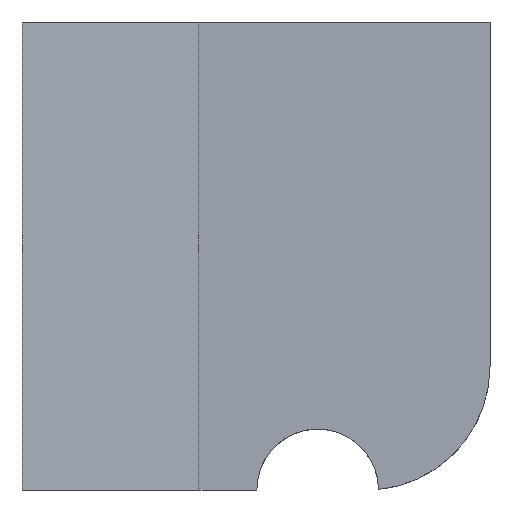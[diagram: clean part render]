
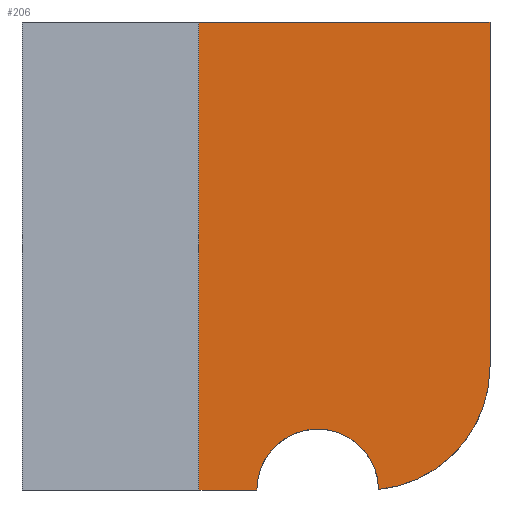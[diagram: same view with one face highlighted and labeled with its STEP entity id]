
A CAD part, left-side view. The second image highlights one B-rep face of the part: STEP entity #206.
In plain terms, the highlighted planar face has unit normal (-1, 0, 0).
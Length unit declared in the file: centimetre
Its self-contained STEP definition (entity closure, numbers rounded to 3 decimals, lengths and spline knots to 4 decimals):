
#11 = VERTEX_POINT ( 'NONE', #597 ) ;
#34 = LINE ( 'NONE', #173, #368 ) ;
#60 = EDGE_CURVE ( 'NONE', #266, #835, #366, .T. ) ;
#104 = LINE ( 'NONE', #111, #263 ) ;
#111 = CARTESIAN_POINT ( 'NONE',  ( 0., 0., 1000. ) ) ;
#134 = VECTOR ( 'NONE', #156, 100. ) ;
#141 = CARTESIAN_POINT ( 'NONE',  ( 0., 621.8618, 0. ) ) ;
#156 = DIRECTION ( 'NONE',  ( 0., 0., 1. ) ) ;
#159 = EDGE_CURVE ( 'NONE', #603, #794, #34, .T. ) ;
#169 = AXIS2_PLACEMENT_3D ( 'NONE', #821, #637, #243 ) ;
#173 = CARTESIAN_POINT ( 'NONE',  ( 0., 1000., 1000. ) ) ;
#182 = CARTESIAN_POINT ( 'NONE',  ( 0., 0., 1000. ) ) ;
#183 = ORIENTED_EDGE ( 'NONE', *, *, #626, .T. ) ;
#206 = ADVANCED_FACE ( 'NONE', ( #545 ), #477, .F. ) ;
#231 = CARTESIAN_POINT ( 'NONE',  ( 0., 1000., 1000. ) ) ;
#234 = ORIENTED_EDGE ( 'NONE', *, *, #724, .T. ) ;
#243 = DIRECTION ( 'NONE',  ( 0., 0., -1. ) ) ;
#263 = VECTOR ( 'NONE', #496, 100. ) ;
#266 = VERTEX_POINT ( 'NONE', #388 ) ;
#281 = VERTEX_POINT ( 'NONE', #458 ) ;
#338 = AXIS2_PLACEMENT_3D ( 'NONE', #608, #673, #535 ) ;
#366 = CIRCLE ( 'NONE', #338, 130.1091 ) ;
#368 = VECTOR ( 'NONE', #373, 100. ) ;
#373 = DIRECTION ( 'NONE',  ( 0., -1., 0. ) ) ;
#388 = CARTESIAN_POINT ( 'NONE',  ( 0., 498.2438, 0. ) ) ;
#398 = EDGE_CURVE ( 'NONE', #281, #603, #722, .T. ) ;
#417 = DIRECTION ( 'NONE',  ( 1., 0., 0. ) ) ;
#418 = ORIENTED_EDGE ( 'NONE', *, *, #60, .T. ) ;
#426 = CARTESIAN_POINT ( 'NONE',  ( 0., 1000., 0. ) ) ;
#431 = DIRECTION ( 'NONE',  ( 0., -1., 0. ) ) ;
#436 = CARTESIAN_POINT ( 'NONE',  ( 0., 238.0316, 1.2526 ) ) ;
#439 = CIRCLE ( 'NONE', #169, 263.7037 ) ;
#458 = CARTESIAN_POINT ( 'NONE',  ( 0., 621.8618, 0. ) ) ;
#466 = ORIENTED_EDGE ( 'NONE', *, *, #398, .F. ) ;
#477 = PLANE ( 'NONE',  #492 ) ;
#492 = AXIS2_PLACEMENT_3D ( 'NONE', #231, #417, #675 ) ;
#496 = DIRECTION ( 'NONE',  ( 0., 0., -1. ) ) ;
#535 = DIRECTION ( 'NONE',  ( 0., 0., -1. ) ) ;
#537 = ORIENTED_EDGE ( 'NONE', *, *, #159, .F. ) ;
#545 = FACE_OUTER_BOUND ( 'NONE', #605, .T. ) ;
#578 = VECTOR ( 'NONE', #431, 100. ) ;
#597 = CARTESIAN_POINT ( 'NONE',  ( 0., 0., 263.7037 ) ) ;
#603 = VERTEX_POINT ( 'NONE', #818 ) ;
#605 = EDGE_LOOP ( 'NONE', ( #183, #418, #234, #813, #537, #466 ) ) ;
#608 = CARTESIAN_POINT ( 'NONE',  ( 0., 368.1347, 0. ) ) ;
#626 = EDGE_CURVE ( 'NONE', #281, #266, #814, .T. ) ;
#637 = DIRECTION ( 'NONE',  ( -1., 0., 0. ) ) ;
#673 = DIRECTION ( 'NONE',  ( 1., 0., 0. ) ) ;
#675 = DIRECTION ( 'NONE',  ( 0., 0., -1. ) ) ;
#722 = LINE ( 'NONE', #141, #134 ) ;
#724 = EDGE_CURVE ( 'NONE', #835, #11, #439, .T. ) ;
#785 = EDGE_CURVE ( 'NONE', #794, #11, #104, .T. ) ;
#794 = VERTEX_POINT ( 'NONE', #182 ) ;
#813 = ORIENTED_EDGE ( 'NONE', *, *, #785, .F. ) ;
#814 = LINE ( 'NONE', #426, #578 ) ;
#818 = CARTESIAN_POINT ( 'NONE',  ( 0., 621.8618, 1000. ) ) ;
#821 = CARTESIAN_POINT ( 'NONE',  ( 0., 263.7037, 263.7037 ) ) ;
#835 = VERTEX_POINT ( 'NONE', #436 ) ;
